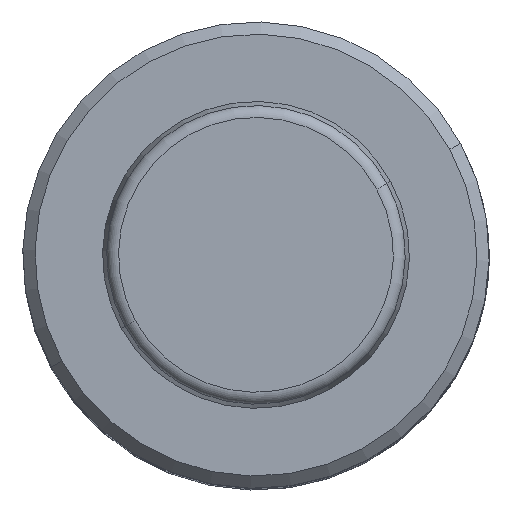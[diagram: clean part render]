
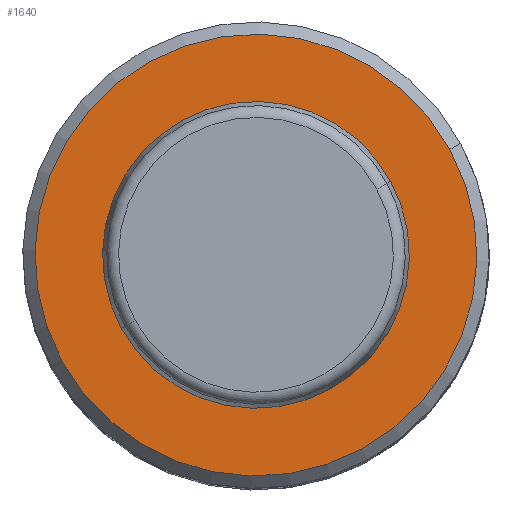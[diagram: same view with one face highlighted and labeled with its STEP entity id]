
A CAD part, top view. The second image highlights one B-rep face of the part: STEP entity #1640.
In plain terms, the highlighted planar face has unit normal (0, 0, 1).
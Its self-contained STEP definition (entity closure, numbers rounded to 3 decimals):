
#1412=CARTESIAN_POINT('Axis2P3D Location',(0.,0.,61.)) ;
#1416=CARTESIAN_POINT('Vertex',(15.796,8.63,61.)) ;
#1418=CARTESIAN_POINT('Vertex',(-15.796,-8.63,61.)) ;
#1447=CARTESIAN_POINT('Axis2P3D Location',(0.,0.,61.)) ;
#1631=CARTESIAN_POINT('Axis2P3D Location',(18.,0.,61.)) ;
#1413=DIRECTION('Axis2P3D Direction',(0.,0.,-1.)) ;
#1448=DIRECTION('Axis2P3D Direction',(0.,0.,-1.)) ;
#1632=DIRECTION('Axis2P3D Direction',(0.,0.,1.)) ;
#1633=DIRECTION('Axis2P3D XDirection',(1.,0.,0.)) ;
#1414=AXIS2_PLACEMENT_3D('Circle Axis2P3D',#1412,#1413,$) ;
#1449=AXIS2_PLACEMENT_3D('Circle Axis2P3D',#1447,#1448,$) ;
#1634=AXIS2_PLACEMENT_3D('Plane Axis2P3D',#1631,#1632,#1633) ;
#1637=ORIENTED_EDGE('',*,*,#1420,.T.) ;
#1638=ORIENTED_EDGE('',*,*,#1451,.T.) ;
#1640=ADVANCED_FACE('',(#1639),#1635,.T.) ;
#1415=CIRCLE('generated circle',#1414,18.) ;
#1450=CIRCLE('generated circle',#1449,18.) ;
#1420=EDGE_CURVE('',#1417,#1419,#1415,.F.) ;
#1451=EDGE_CURVE('',#1419,#1417,#1450,.F.) ;
#1636=EDGE_LOOP('',(#1637,#1638)) ;
#1639=FACE_OUTER_BOUND('',#1636,.T.) ;
#1635=PLANE('Plane',#1634) ;
#1417=VERTEX_POINT('',#1416) ;
#1419=VERTEX_POINT('',#1418) ;
